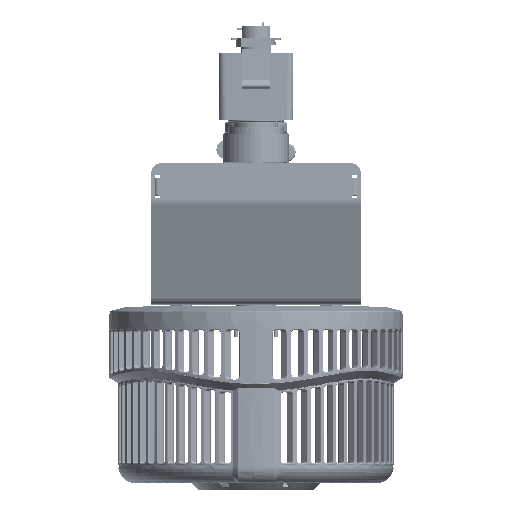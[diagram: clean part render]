
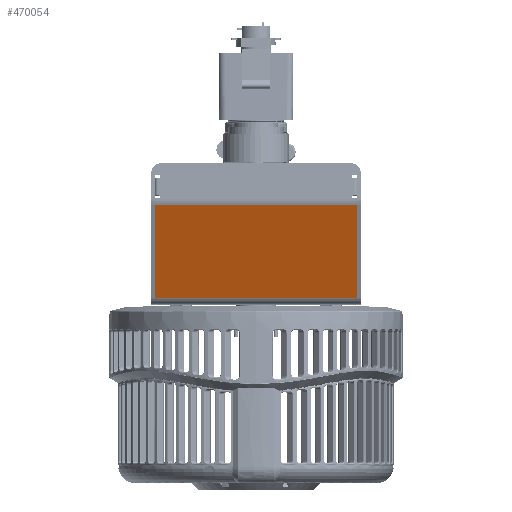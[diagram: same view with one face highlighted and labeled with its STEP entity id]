
A CAD part, top view. The second image highlights one B-rep face of the part: STEP entity #470054.
In plain terms, the highlighted planar face has unit normal (0, -0.342, 0.94) as drawn and (-0.94, -0.342, 0) by its records, which use the part's own axes.
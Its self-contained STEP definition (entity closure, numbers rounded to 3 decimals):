
#26026 = VECTOR ( 'NONE', #461906, 1000. ) ;
#44287 = VECTOR ( 'NONE', #71162, 1000. ) ;
#64147 = DIRECTION ( 'NONE',  ( 0.342, -0.94, 0. ) ) ;
#65721 = CARTESIAN_POINT ( 'NONE',  ( -80.487, 40.448, 46. ) ) ;
#70633 = ORIENTED_EDGE ( 'NONE', *, *, #277099, .F. ) ;
#71162 = DIRECTION ( 'NONE',  ( 0., 0., -1. ) ) ;
#93446 = AXIS2_PLACEMENT_3D ( 'NONE', #242957, #278655, #424129 ) ;
#102308 = CARTESIAN_POINT ( 'NONE',  ( -65.209, -1.528, 46. ) ) ;
#103382 = DIRECTION ( 'NONE',  ( 0., 0., -1. ) ) ;
#106199 = CARTESIAN_POINT ( 'NONE',  ( -65.209, -1.528, -46. ) ) ;
#143963 = CARTESIAN_POINT ( 'NONE',  ( -65.209, -1.528, 46. ) ) ;
#187766 = EDGE_LOOP ( 'NONE', ( #424404, #308139, #70633, #271828 ) ) ;
#209440 = FACE_OUTER_BOUND ( 'NONE', #187766, .T. ) ;
#209573 = LINE ( 'NONE', #102308, #452145 ) ;
#222150 = VERTEX_POINT ( 'NONE', #106199 ) ;
#234917 = VERTEX_POINT ( 'NONE', #442860 ) ;
#242957 = CARTESIAN_POINT ( 'NONE',  ( -65.209, -1.528, 46. ) ) ;
#244135 = LINE ( 'NONE', #143963, #327949 ) ;
#255172 = CARTESIAN_POINT ( 'NONE',  ( -80.487, 40.448, -46. ) ) ;
#271828 = ORIENTED_EDGE ( 'NONE', *, *, #428588, .T. ) ;
#274396 = VERTEX_POINT ( 'NONE', #255172 ) ;
#277099 = EDGE_CURVE ( 'NONE', #303693, #234917, #209573, .T. ) ;
#278655 = DIRECTION ( 'NONE',  ( 0.94, 0.342, 0. ) ) ;
#303693 = VERTEX_POINT ( 'NONE', #65721 ) ;
#308139 = ORIENTED_EDGE ( 'NONE', *, *, #463070, .F. ) ;
#321527 = CARTESIAN_POINT ( 'NONE',  ( -80.487, 40.448, 46. ) ) ;
#327949 = VECTOR ( 'NONE', #103382, 1000. ) ;
#342798 = CARTESIAN_POINT ( 'NONE',  ( -65.209, -1.528, -46. ) ) ;
#424129 = DIRECTION ( 'NONE',  ( -0.342, 0.94, 0. ) ) ;
#424404 = ORIENTED_EDGE ( 'NONE', *, *, #444511, .T. ) ;
#428588 = EDGE_CURVE ( 'NONE', #303693, #274396, #433539, .T. ) ;
#433539 = LINE ( 'NONE', #321527, #44287 ) ;
#442860 = CARTESIAN_POINT ( 'NONE',  ( -65.209, -1.528, 46. ) ) ;
#444511 = EDGE_CURVE ( 'NONE', #274396, #222150, #454864, .T. ) ;
#452145 = VECTOR ( 'NONE', #64147, 1000. ) ;
#454864 = LINE ( 'NONE', #342798, #26026 ) ;
#459866 = PLANE ( 'NONE',  #93446 ) ;
#461906 = DIRECTION ( 'NONE',  ( 0.342, -0.94, 0. ) ) ;
#463070 = EDGE_CURVE ( 'NONE', #234917, #222150, #244135, .T. ) ;
#470054 = ADVANCED_FACE ( 'NONE', ( #209440 ), #459866, .F. ) ;
